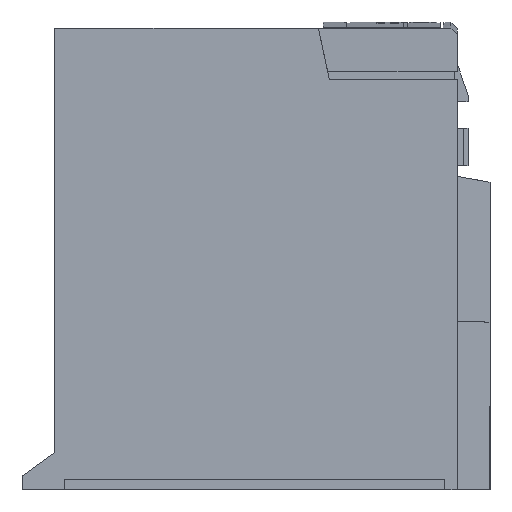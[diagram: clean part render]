
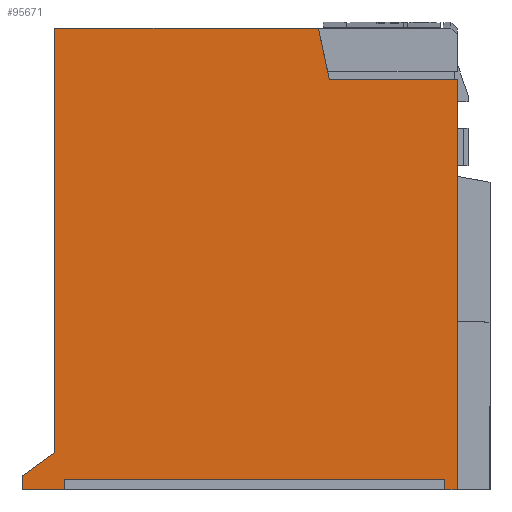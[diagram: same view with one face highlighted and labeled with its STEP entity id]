
A CAD part, left-side view. The second image highlights one B-rep face of the part: STEP entity #95671.
In plain terms, the highlighted planar face has unit normal (-1, 0, 0).
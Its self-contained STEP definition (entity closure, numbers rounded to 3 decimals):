
#670 = ORIENTED_EDGE ( 'NONE', *, *, #39400, .F. ) ;
#993 = CARTESIAN_POINT ( 'NONE',  ( 0., 0., -148. ) ) ;
#2878 = LINE ( 'NONE', #32750, #24196 ) ;
#3033 = CARTESIAN_POINT ( 'NONE',  ( 0., 0., 0. ) ) ;
#3203 = LINE ( 'NONE', #993, #62072 ) ;
#3629 = DIRECTION ( 'NONE',  ( -1., 0., 0. ) ) ;
#4733 = EDGE_CURVE ( 'NONE', #32037, #74969, #2878, .T. ) ;
#5014 = LINE ( 'NONE', #31307, #66387 ) ;
#5084 = CARTESIAN_POINT ( 'NONE',  ( 0., 0., -148. ) ) ;
#7863 = EDGE_CURVE ( 'NONE', #24150, #38581, #22134, .T. ) ;
#9498 = LINE ( 'NONE', #5084, #52125 ) ;
#9602 = VECTOR ( 'NONE', #87414, 1000. ) ;
#11403 = VECTOR ( 'NONE', #26745, 1000. ) ;
#11726 = ORIENTED_EDGE ( 'NONE', *, *, #74841, .T. ) ;
#12703 = EDGE_CURVE ( 'NONE', #19158, #24150, #28828, .T. ) ;
#12739 = FACE_OUTER_BOUND ( 'NONE', #68822, .T. ) ;
#12776 = ORIENTED_EDGE ( 'NONE', *, *, #25401, .F. ) ;
#18218 = CARTESIAN_POINT ( 'NONE',  ( 0., 14.5, -148. ) ) ;
#18616 = ORIENTED_EDGE ( 'NONE', *, *, #7863, .T. ) ;
#18724 = CARTESIAN_POINT ( 'NONE',  ( 0., 136.5, -148. ) ) ;
#19158 = VERTEX_POINT ( 'NONE', #96581 ) ;
#21814 = CARTESIAN_POINT ( 'NONE',  ( 0., 139.5, -136. ) ) ;
#22134 = LINE ( 'NONE', #70266, #40897 ) ;
#22326 = LINE ( 'NONE', #52594, #83712 ) ;
#23006 = CARTESIAN_POINT ( 'NONE',  ( 0., 55., 0. ) ) ;
#24150 = VERTEX_POINT ( 'NONE', #55979 ) ;
#24196 = VECTOR ( 'NONE', #80735, 1000. ) ;
#25126 = DIRECTION ( 'NONE',  ( 0., 1., 0. ) ) ;
#25401 = EDGE_CURVE ( 'NONE', #28128, #59932, #65501, .T. ) ;
#25593 = CARTESIAN_POINT ( 'NONE',  ( 0., 150., -143.5 ) ) ;
#26745 = DIRECTION ( 'NONE',  ( 0., 0., 1. ) ) ;
#27787 = LINE ( 'NONE', #43795, #67905 ) ;
#28128 = VERTEX_POINT ( 'NONE', #63130 ) ;
#28828 = LINE ( 'NONE', #34705, #71443 ) ;
#29239 = DIRECTION ( 'NONE',  ( 0., 1., 0. ) ) ;
#30357 = DIRECTION ( 'NONE',  ( 0., 0., -1. ) ) ;
#31307 = CARTESIAN_POINT ( 'NONE',  ( 0., 150., 0. ) ) ;
#31352 = CARTESIAN_POINT ( 'NONE',  ( 0., 55., -16.5 ) ) ;
#32037 = VERTEX_POINT ( 'NONE', #53818 ) ;
#32392 = VERTEX_POINT ( 'NONE', #21814 ) ;
#32750 = CARTESIAN_POINT ( 'NONE',  ( 0., 10.5, -136. ) ) ;
#33666 = DIRECTION ( 'NONE',  ( 0., 0.814, -0.581 ) ) ;
#34705 = CARTESIAN_POINT ( 'NONE',  ( 0., 136.5, -144.5 ) ) ;
#35964 = EDGE_CURVE ( 'NONE', #32392, #58236, #58273, .T. ) ;
#37860 = CARTESIAN_POINT ( 'NONE',  ( 0., 10.5, -16.5 ) ) ;
#38581 = VERTEX_POINT ( 'NONE', #18218 ) ;
#39386 = DIRECTION ( 'NONE',  ( 0., 0., 1. ) ) ;
#39400 = EDGE_CURVE ( 'NONE', #55495, #58236, #5014, .T. ) ;
#40897 = VECTOR ( 'NONE', #30357, 1000. ) ;
#43137 = DIRECTION ( 'NONE',  ( 0., 0., 1. ) ) ;
#43530 = PLANE ( 'NONE',  #61504 ) ;
#43795 = CARTESIAN_POINT ( 'NONE',  ( 0., 139.5, -136. ) ) ;
#44276 = CARTESIAN_POINT ( 'NONE',  ( 0., 150., -148. ) ) ;
#44354 = CARTESIAN_POINT ( 'NONE',  ( 0., 150., -143.5 ) ) ;
#44518 = DIRECTION ( 'NONE',  ( 0., 0.208, 0.978 ) ) ;
#45956 = VECTOR ( 'NONE', #43137, 1000. ) ;
#48354 = ORIENTED_EDGE ( 'NONE', *, *, #35964, .T. ) ;
#48656 = CARTESIAN_POINT ( 'NONE',  ( 0., 136.5, -148. ) ) ;
#50723 = EDGE_CURVE ( 'NONE', #75647, #74969, #52226, .T. ) ;
#51716 = EDGE_CURVE ( 'NONE', #80781, #32037, #72266, .T. ) ;
#51864 = DIRECTION ( 'NONE',  ( 0., 0., -1. ) ) ;
#52125 = VECTOR ( 'NONE', #29239, 1000. ) ;
#52226 = LINE ( 'NONE', #31352, #9602 ) ;
#52230 = CARTESIAN_POINT ( 'NONE',  ( 0., 51.5, -16.5 ) ) ;
#52312 = ORIENTED_EDGE ( 'NONE', *, *, #59590, .F. ) ;
#52594 = CARTESIAN_POINT ( 'NONE',  ( 0., 51.5, -16.5 ) ) ;
#53818 = CARTESIAN_POINT ( 'NONE',  ( 0., 10.5, -94. ) ) ;
#55359 = EDGE_CURVE ( 'NONE', #85726, #19158, #56544, .T. ) ;
#55495 = VERTEX_POINT ( 'NONE', #44276 ) ;
#55979 = CARTESIAN_POINT ( 'NONE',  ( 0., 14.5, -144.5 ) ) ;
#56544 = LINE ( 'NONE', #18724, #11403 ) ;
#58236 = VERTEX_POINT ( 'NONE', #44354 ) ;
#58273 = LINE ( 'NONE', #25593, #98315 ) ;
#59590 = EDGE_CURVE ( 'NONE', #80781, #38581, #3203, .T. ) ;
#59633 = DIRECTION ( 'NONE',  ( 0., 0., 1. ) ) ;
#59932 = VERTEX_POINT ( 'NONE', #23006 ) ;
#61504 = AXIS2_PLACEMENT_3D ( 'NONE', #99513, #3629, #59633 ) ;
#62072 = VECTOR ( 'NONE', #25126, 1000. ) ;
#63130 = CARTESIAN_POINT ( 'NONE',  ( 0., 139.5, 0. ) ) ;
#64548 = ORIENTED_EDGE ( 'NONE', *, *, #50723, .F. ) ;
#65501 = LINE ( 'NONE', #3033, #84315 ) ;
#66387 = VECTOR ( 'NONE', #39386, 1000. ) ;
#67905 = VECTOR ( 'NONE', #51864, 1000. ) ;
#68822 = EDGE_LOOP ( 'NONE', ( #11726, #12776, #86566, #48354, #670, #96080, #82852, #81299, #18616, #52312, #102776, #85796, #64548 ) ) ;
#68855 = CARTESIAN_POINT ( 'NONE',  ( 0., 10.5, -148. ) ) ;
#70266 = CARTESIAN_POINT ( 'NONE',  ( 0., 14.5, -148. ) ) ;
#71443 = VECTOR ( 'NONE', #90671, 1000. ) ;
#72266 = LINE ( 'NONE', #83086, #45956 ) ;
#74841 = EDGE_CURVE ( 'NONE', #75647, #59932, #22326, .T. ) ;
#74969 = VERTEX_POINT ( 'NONE', #37860 ) ;
#75647 = VERTEX_POINT ( 'NONE', #52230 ) ;
#80735 = DIRECTION ( 'NONE',  ( 0., 0., 1. ) ) ;
#80781 = VERTEX_POINT ( 'NONE', #68855 ) ;
#81299 = ORIENTED_EDGE ( 'NONE', *, *, #12703, .T. ) ;
#82852 = ORIENTED_EDGE ( 'NONE', *, *, #55359, .T. ) ;
#83086 = CARTESIAN_POINT ( 'NONE',  ( 0., 10.5, -136. ) ) ;
#83712 = VECTOR ( 'NONE', #44518, 1000. ) ;
#84315 = VECTOR ( 'NONE', #90877, 1000. ) ;
#85425 = EDGE_CURVE ( 'NONE', #28128, #32392, #27787, .T. ) ;
#85726 = VERTEX_POINT ( 'NONE', #48656 ) ;
#85796 = ORIENTED_EDGE ( 'NONE', *, *, #4733, .T. ) ;
#86566 = ORIENTED_EDGE ( 'NONE', *, *, #85425, .T. ) ;
#87414 = DIRECTION ( 'NONE',  ( 0., -1., 0. ) ) ;
#90671 = DIRECTION ( 'NONE',  ( 0., -1., 0. ) ) ;
#90877 = DIRECTION ( 'NONE',  ( 0., -1., 0. ) ) ;
#95671 = ADVANCED_FACE ( 'NONE', ( #12739 ), #43530, .T. ) ;
#96080 = ORIENTED_EDGE ( 'NONE', *, *, #99282, .F. ) ;
#96581 = CARTESIAN_POINT ( 'NONE',  ( 0., 136.5, -144.5 ) ) ;
#98315 = VECTOR ( 'NONE', #33666, 1000. ) ;
#99282 = EDGE_CURVE ( 'NONE', #85726, #55495, #9498, .T. ) ;
#99513 = CARTESIAN_POINT ( 'NONE',  ( 0., 0., 0. ) ) ;
#102776 = ORIENTED_EDGE ( 'NONE', *, *, #51716, .T. ) ;
